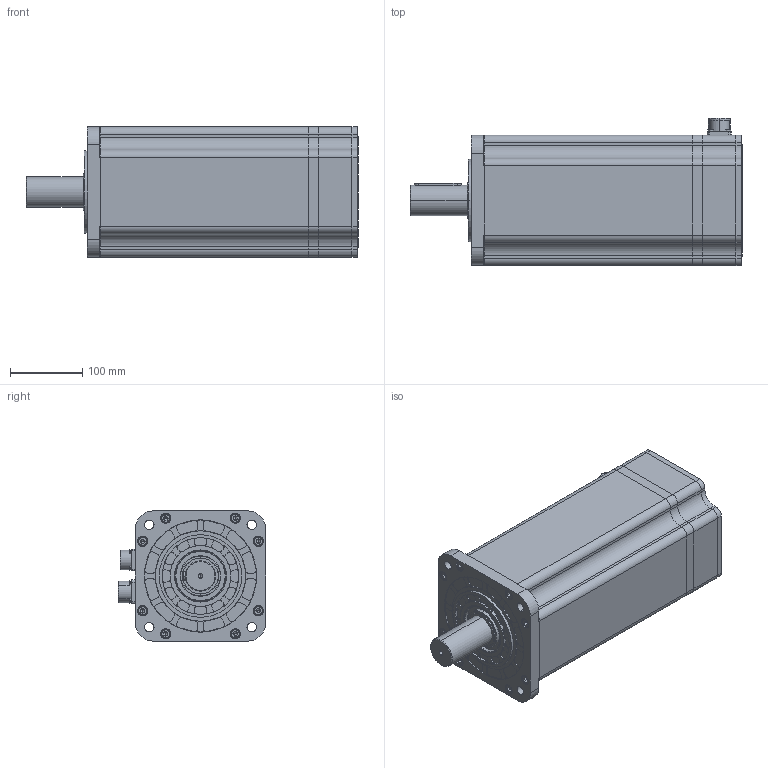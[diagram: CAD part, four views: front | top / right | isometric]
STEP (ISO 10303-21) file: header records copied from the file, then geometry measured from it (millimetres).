
FILE_DESCRIPTION (( 'STEP AP203' ), '1' );
FILE_NAME ('70680299£¨JLBH-3160-80-7RVP£©.STEP', '2020-03-12T11:35:57', ( '' ), ( '' ), 'SwSTEP 2.0', 'SolidWorks 2016', '' );
FILE_SCHEMA (( 'CONFIG_CONTROL_DESIGN' ));
Length unit declared in the file: millimetre
Products named in the file (20): hexagon socket head cap screws gb_GB_FASTENER_SCREWS_HSHCS M3X10-N; 1.3.03.200006 蚐猾 50x72x8; 70680299（JLBH-3160-80-7RVP）; 1.1.21.KEB1803-0001 机壳（180L174）; 1.1.02.KEB1802-0001 后端盖（180节圆55）; 1.1.12.KHG180-0001码盘罩后盖（180）; 1.2.09.000013 粣創 6310_Rolling bearings 6310 GB 276-94; 1.2.09.000014 粣創 6207_Rolling bearings 6207 GB 276-94; 1.1.01.KEB1801-0001 前端盖（180）; 1.2.05.200006 17郋弊莉陓瘍菁釱; 1.2.02.800002 囀鞠褒 M8X20_GB_FASTENER_SCREWS_HSHCS M8X20-C; 1.1.11.KMP180-0001 码盘罩（180L46）; 1.2.02.800001 囀鞠褒 M8X45_GB_FASTENER_SCREWS_HSHCS M8X45-C; 1.1.07.KSF180-0001 转轴（180总长307.5-轴承档147）-配HN20多圈; 1.2.05.100022 6郋弊莉萇埭菁釱; 1.1.13.KYB180-0001 轴承压板（180）; 1.2.03.000026 埴芛す瑩A倰 12X8X65; 1.2.02.800003 坋趼麥芛 M8X16_GB_CROSS_SCREWS_TYPE4 M8X16-11.35  H type-C; 1.2.02.300002 囀鞠褒 M5X16_GB_FASTENER_SCREWS_HSHCS M5X16-C; 隅赽軞傖
Assembly tree (48 placements, depth 3):
  70680299（JLBH-3160-80-7RVP）
    1.1.07.KSF180-0001 转轴（180总长307.5-轴承档147）-配HN20多圈
    1.2.09.000013 粣創 6310_Rolling bearings 6310 GB 276-94
    1.2.09.000014 粣創 6207_Rolling bearings 6207 GB 276-94
    1.1.02.KEB1802-0001 后端盖（180节圆55）
    隅赽軞傖
      1.1.21.KEB1803-0001 机壳（180L174）
      1.1.01.KEB1801-0001 前端盖（180）
      1.3.03.200006 蚐猾 50x72x8
    1.1.13.KYB180-0001 轴承压板（180）
    1.2.02.300002 囀鞠褒 M5X16_GB_FASTENER_SCREWS_HSHCS M5X16-C  x6
    1.2.02.800002 囀鞠褒 M8X20_GB_FASTENER_SCREWS_HSHCS M8X20-C  x12
    1.2.02.800001 囀鞠褒 M8X45_GB_FASTENER_SCREWS_HSHCS M8X45-C  x4
    1.1.11.KMP180-0001 码盘罩（180L46）
    1.1.12.KHG180-0001码盘罩后盖（180）
    1.2.02.800003 坋趼麥芛 M8X16_GB_CROSS_SCREWS_TYPE4 M8X16-11.35  H type-C  x4
    1.2.05.100022 6郋弊莉萇埭菁釱
    1.2.05.200006 17郋弊莉陓瘍菁釱
    1.2.03.000026 埴芛す瑩A倰 12X8X65
    hexagon socket head cap screws gb_GB_FASTENER_SCREWS_HSHCS M3X10-N  x8
Bounding box: 458.8 x 203.5 x 180 mm (x, y, z)
Volume: 3905291.6 mm3; surface area: 963764.4 mm2
Topology: 47 solids, 47 shells, 2303 faces, 6327 edges, 4033 vertices
Faces by surface type: plane 902, cylinder 895, torus 200, cone 194, sphere 110, bspline 2
Entity records: 58263 total; most frequent: CARTESIAN_POINT 13166, DIRECTION 9381, ORIENTED_EDGE 8754, EDGE_CURVE 4377, AXIS2_PLACEMENT_3D 3852, VERTEX_POINT 2881, CIRCLE 2224, EDGE_LOOP 1842
